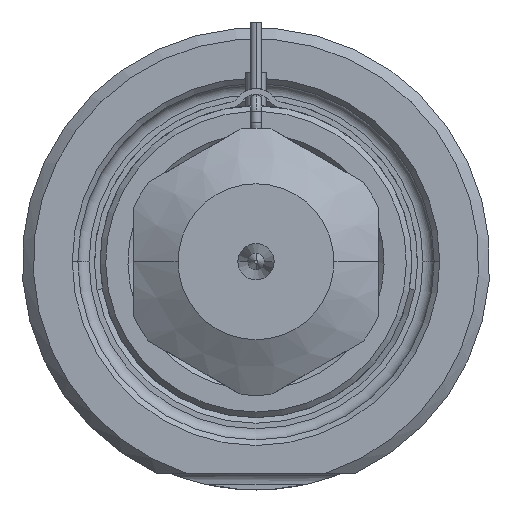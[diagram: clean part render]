
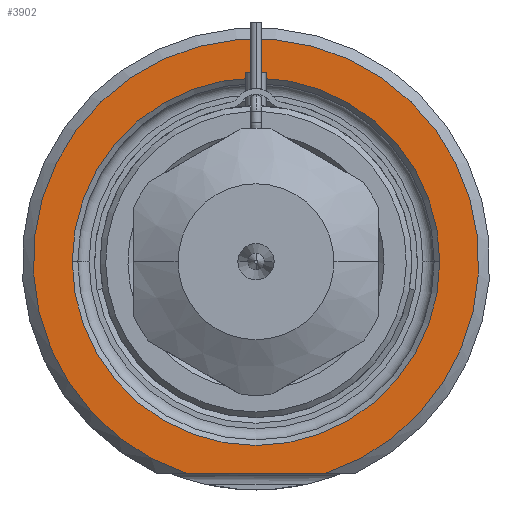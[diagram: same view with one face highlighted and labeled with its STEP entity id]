
A CAD part, front view. The second image highlights one B-rep face of the part: STEP entity #3902.
In plain terms, the highlighted planar face has unit normal (0, -1, 0).
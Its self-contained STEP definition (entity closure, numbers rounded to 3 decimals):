
#1=DIRECTION('',(1.,0.,0.));
#2=VECTOR('',#1,12.49);
#3=CARTESIAN_POINT('',(-6.245,0.,-19.));
#4=LINE('',#3,#2);
#5=CARTESIAN_POINT('',(0.,0.,0.));
#6=DIRECTION('',(0.,1.,0.));
#7=DIRECTION('',(-1.,0.,0.));
#8=AXIS2_PLACEMENT_3D('',#5,#6,#7);
#10=CARTESIAN_POINT('',(0.,0.,0.));
#11=DIRECTION('',(0.,1.,0.));
#12=DIRECTION('',(1.,0.,0.));
#13=AXIS2_PLACEMENT_3D('',#10,#11,#12);
#119=CARTESIAN_POINT('',(0.,0.,0.));
#120=DIRECTION('',(0.,-1.,0.));
#121=DIRECTION('',(0.312,0.,-0.95));
#122=AXIS2_PLACEMENT_3D('',#119,#120,#121);
#3268=CARTESIAN_POINT('',(-16.5,0.,0.));
#3269=CARTESIAN_POINT('',(16.5,0.,0.));
#3270=VERTEX_POINT('',#3268);
#3271=VERTEX_POINT('',#3269);
#3308=CARTESIAN_POINT('',(-6.245,0.,-19.));
#3309=CARTESIAN_POINT('',(6.245,0.,-19.));
#3310=VERTEX_POINT('',#3308);
#3311=VERTEX_POINT('',#3309);
#3885=CARTESIAN_POINT('',(0.,0.,0.));
#3886=DIRECTION('',(0.,-1.,0.));
#3887=DIRECTION('',(1.,0.,0.));
#3888=AXIS2_PLACEMENT_3D('',#3885,#3886,#3887);
#3889=PLANE('',#3888);
#3891=ORIENTED_EDGE('',*,*,#3890,.F.);
#3893=ORIENTED_EDGE('',*,*,#3892,.F.);
#3894=EDGE_LOOP('',(#3891,#3893));
#3895=FACE_OUTER_BOUND('',#3894,.F.);
#3897=ORIENTED_EDGE('',*,*,#3896,.F.);
#3899=ORIENTED_EDGE('',*,*,#3898,.F.);
#3900=EDGE_LOOP('',(#3897,#3899));
#3901=FACE_BOUND('',#3900,.F.);
#3902=ADVANCED_FACE('',(#3895,#3901),#3889,.T.);
#9=CIRCLE('',#8,16.5);
#14=CIRCLE('',#13,16.5);
#123=CIRCLE('',#122,20.);
#3890=EDGE_CURVE('',#3310,#3311,#4,.T.);
#3892=EDGE_CURVE('',#3311,#3310,#123,.T.);
#3896=EDGE_CURVE('',#3270,#3271,#9,.T.);
#3898=EDGE_CURVE('',#3271,#3270,#14,.T.);
